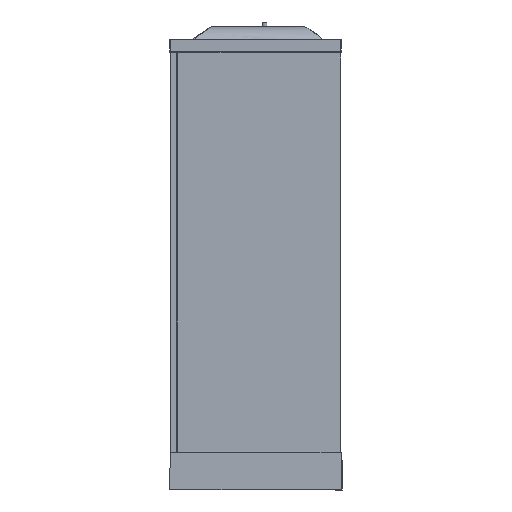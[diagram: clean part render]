
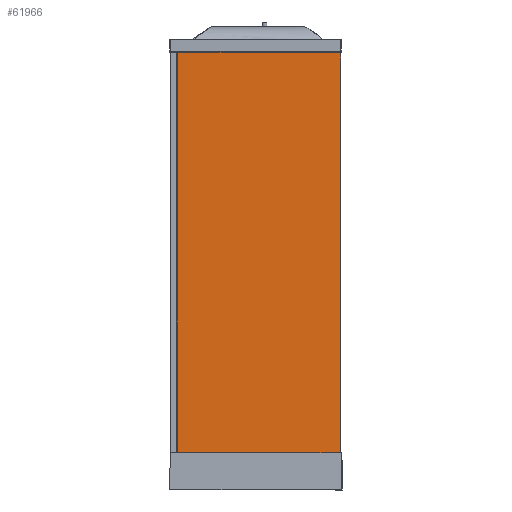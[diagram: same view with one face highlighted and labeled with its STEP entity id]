
A CAD part, left-side view. The second image highlights one B-rep face of the part: STEP entity #61966.
In plain terms, the highlighted free-form (B-spline) face has degree [1, 1] with [2, 2] control points.
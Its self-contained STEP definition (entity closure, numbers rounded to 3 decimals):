
#61878=CARTESIAN_POINT('',(-998.527,-789.402,173.92));
#61879=VERTEX_POINT('',#61878);
#61887=CARTESIAN_POINT('',(-998.527,-801.902,173.92));
#61888=VERTEX_POINT('',#61887);
#61895=CARTESIAN_POINT('',(-998.527,-801.902,173.92));
#61896=DIRECTION('',(0.0,1.0,0.0));
#61897=VECTOR('',#61896,12.5);
#61898=LINE('',#61895,#61897);
#61899=EDGE_CURVE('',#61888,#61879,#61898,.T.);
#61904=CARTESIAN_POINT('',(-998.527,-35.322,2063.14));
#61905=CARTESIAN_POINT('',(-998.527,-801.982,2063.14));
#61906=CARTESIAN_POINT('',(-998.527,-35.322,162.98));
#61907=CARTESIAN_POINT('',(-998.527,-801.982,162.98));
#61908=B_SPLINE_SURFACE_WITH_KNOTS('',1,1,((#61904,#61906),(#61905,#61907)),.UNSPECIFIED.,.F.,.F.,.U.,(2,2),(2,2),(82.959,849.619),(73.049,1973.209),.UNSPECIFIED.);
#61909=CARTESIAN_POINT('',(-998.527,-789.402,163.06));
#61910=VERTEX_POINT('',#61909);
#61911=CARTESIAN_POINT('',(-998.527,-789.402,173.92));
#61912=DIRECTION('',(0.0,0.0,-1.0));
#61913=VECTOR('',#61912,10.86);
#61914=LINE('',#61911,#61913);
#61915=EDGE_CURVE('',#61879,#61910,#61914,.T.);
#61916=ORIENTED_EDGE('',*,*,#61915,.F.);
#61917=ORIENTED_EDGE('',*,*,#61899,.F.);
#61918=CARTESIAN_POINT('',(-998.527,-801.902,2051.92));
#61919=VERTEX_POINT('',#61918);
#61920=CARTESIAN_POINT('',(-998.527,-801.902,2051.92));
#61921=DIRECTION('',(0.0,0.0,-1.0));
#61922=VECTOR('',#61921,1878.);
#61923=LINE('',#61920,#61922);
#61924=EDGE_CURVE('',#61919,#61888,#61923,.T.);
#61925=ORIENTED_EDGE('',*,*,#61924,.F.);
#61926=CARTESIAN_POINT('',(-998.527,-789.402,2051.92));
#61927=VERTEX_POINT('',#61926);
#61928=CARTESIAN_POINT('',(-998.527,-789.402,2051.92));
#61929=DIRECTION('',(0.0,-1.0,0.0));
#61930=VECTOR('',#61929,12.5);
#61931=LINE('',#61928,#61930);
#61932=EDGE_CURVE('',#61927,#61919,#61931,.T.);
#61933=ORIENTED_EDGE('',*,*,#61932,.F.);
#61934=CARTESIAN_POINT('',(-998.527,-789.402,2063.06));
#61935=VERTEX_POINT('',#61934);
#61936=CARTESIAN_POINT('',(-998.527,-789.402,2063.06));
#61937=DIRECTION('',(0.0,0.0,-1.0));
#61938=VECTOR('',#61937,11.14);
#61939=LINE('',#61936,#61938);
#61940=EDGE_CURVE('',#61935,#61927,#61939,.T.);
#61941=ORIENTED_EDGE('',*,*,#61940,.F.);
#61942=CARTESIAN_POINT('',(-998.527,-35.402,2063.06));
#61943=VERTEX_POINT('',#61942);
#61944=CARTESIAN_POINT('',(-998.527,-35.402,2063.06));
#61945=DIRECTION('',(0.0,-1.0,0.0));
#61946=VECTOR('',#61945,754.);
#61947=LINE('',#61944,#61946);
#61948=EDGE_CURVE('',#61943,#61935,#61947,.T.);
#61949=ORIENTED_EDGE('',*,*,#61948,.F.);
#61950=CARTESIAN_POINT('',(-998.527,-35.402,163.06));
#61951=VERTEX_POINT('',#61950);
#61952=CARTESIAN_POINT('',(-998.527,-35.402,163.06));
#61953=DIRECTION('',(0.0,0.0,1.0));
#61954=VECTOR('',#61953,1900.);
#61955=LINE('',#61952,#61954);
#61956=EDGE_CURVE('',#61951,#61943,#61955,.T.);
#61957=ORIENTED_EDGE('',*,*,#61956,.F.);
#61958=CARTESIAN_POINT('',(-998.527,-789.402,163.06));
#61959=DIRECTION('',(0.0,1.0,0.0));
#61960=VECTOR('',#61959,754.);
#61961=LINE('',#61958,#61960);
#61962=EDGE_CURVE('',#61910,#61951,#61961,.T.);
#61963=ORIENTED_EDGE('',*,*,#61962,.F.);
#61964=EDGE_LOOP('',(#61916,#61917,#61925,#61933,#61941,#61949,#61957,#61963));
#61965=FACE_OUTER_BOUND('',#61964,.T.);
#61966=ADVANCED_FACE('',(#61965),#61908,.F.);
